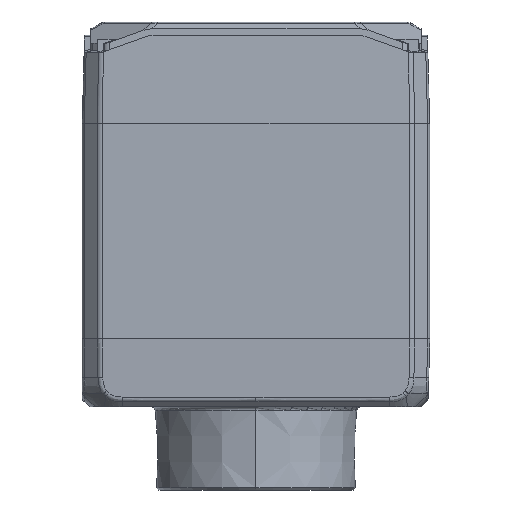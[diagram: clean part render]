
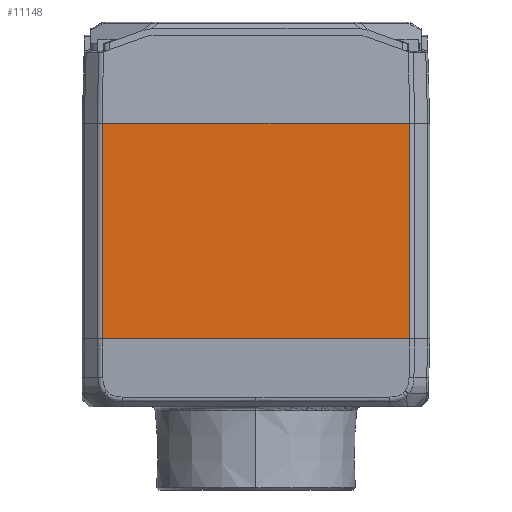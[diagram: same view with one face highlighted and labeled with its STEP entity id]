
A CAD part, left-side view. The second image highlights one B-rep face of the part: STEP entity #11148.
In plain terms, the highlighted planar face has unit normal (-1, 0, 0) as drawn and (0, 1, 0) by its records, which use the part's own axes.
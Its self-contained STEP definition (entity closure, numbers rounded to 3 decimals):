
#10735=DIRECTION('',(1.,0.,0.));
#10736=VECTOR('',#10735,31.);
#10737=CARTESIAN_POINT('',(-0.5,50.,-14.514));
#10738=LINE('',#10737,#10736);
#10739=DIRECTION('',(0.,0.,-1.));
#10740=VECTOR('',#10739,44.172);
#10741=CARTESIAN_POINT('',(-0.5,50.,-14.514));
#10742=LINE('',#10741,#10740);
#10743=DIRECTION('',(-1.,0.,0.));
#10744=VECTOR('',#10743,31.);
#10745=CARTESIAN_POINT('',(30.5,50.,-58.686));
#10746=LINE('',#10745,#10744);
#10747=DIRECTION('',(0.,0.,1.));
#10748=VECTOR('',#10747,44.172);
#10749=CARTESIAN_POINT('',(30.5,50.,-58.686));
#10750=LINE('',#10749,#10748);
#10900=CARTESIAN_POINT('',(-0.5,50.,-14.514));
#10902=VERTEX_POINT('',#10900);
#10923=CARTESIAN_POINT('',(-0.5,50.,-58.686));
#10925=VERTEX_POINT('',#10923);
#10931=CARTESIAN_POINT('',(30.5,50.,-14.514));
#10933=VERTEX_POINT('',#10931);
#10956=CARTESIAN_POINT('',(30.5,50.,-58.686));
#10958=VERTEX_POINT('',#10956);
#11136=CARTESIAN_POINT('',(30.,50.,-61.6));
#11137=DIRECTION('',(0.,1.,0.));
#11138=DIRECTION('',(0.,0.,1.));
#11139=AXIS2_PLACEMENT_3D('',#11136,#11137,#11138);
#11140=PLANE('',#11139);
#11141=ORIENTED_EDGE('',*,*,#11084,.F.);
#11142=ORIENTED_EDGE('',*,*,#11059,.T.);
#11144=ORIENTED_EDGE('',*,*,#11143,.F.);
#11145=ORIENTED_EDGE('',*,*,#11095,.T.);
#11146=EDGE_LOOP('',(#11141,#11142,#11144,#11145));
#11147=FACE_OUTER_BOUND('',#11146,.F.);
#11148=ADVANCED_FACE('',(#11147),#11140,.T.);
#11059=EDGE_CURVE('',#10902,#10925,#10742,.T.);
#11084=EDGE_CURVE('',#10902,#10933,#10738,.T.);
#11095=EDGE_CURVE('',#10958,#10933,#10750,.T.);
#11143=EDGE_CURVE('',#10958,#10925,#10746,.T.);
